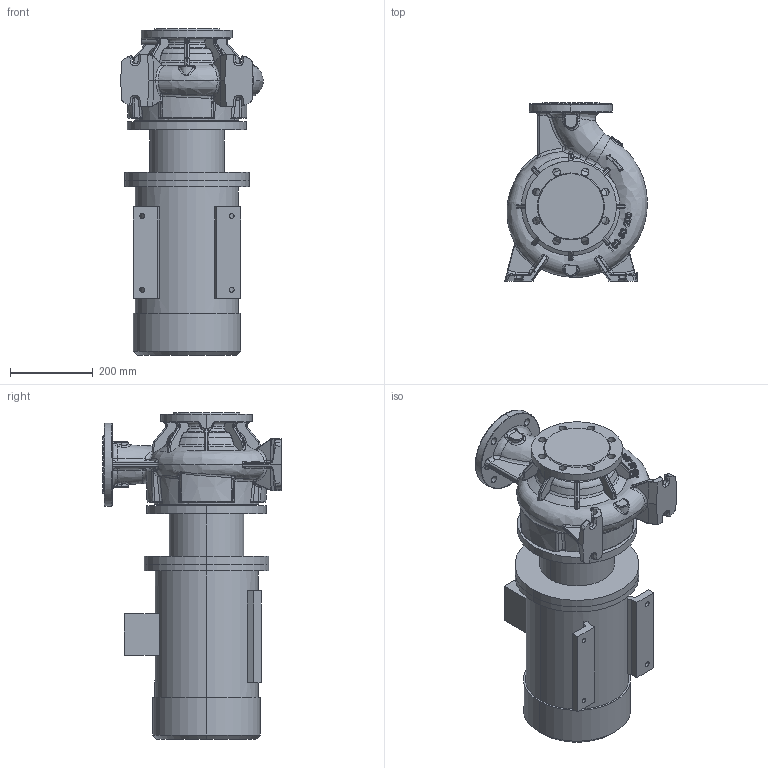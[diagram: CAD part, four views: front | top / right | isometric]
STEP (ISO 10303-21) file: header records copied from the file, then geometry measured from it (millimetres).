
FILE_DESCRIPTION (( 'STEP AP203' ), '1' );
FILE_NAME ('KRM 100-80-200-4-7,5.STEP', '2026-07-20T12:36:21', ( '' ), ( '' ), 'SwSTEP 2.0', 'SolidWorks 2016', '' );
FILE_SCHEMA (( 'CONFIG_CONTROL_DESIGN' ));
Products named in the file (1): KRM 100-80-200-4-7,5
Bounding box: 344.55 x 430 x 787.8 mm (x, y, z)
Volume: 42734173.8 mm3; surface area: 1606056 mm2
Topology: 14 solids, 14 shells, 1379 faces, 3303 edges, 1969 vertices
Faces by surface type: bspline 620, cylinder 308, plane 223, torus 119, cone 81, sphere 28
Entity records: 91772 total; most frequent: CARTESIAN_POINT 64429, ORIENTED_EDGE 6586, DIRECTION 4522, EDGE_CURVE 3293, VERTEX_POINT 1969, AXIS2_PLACEMENT_3D 1879, EDGE_LOOP 1452, ADVANCED_FACE 1379
